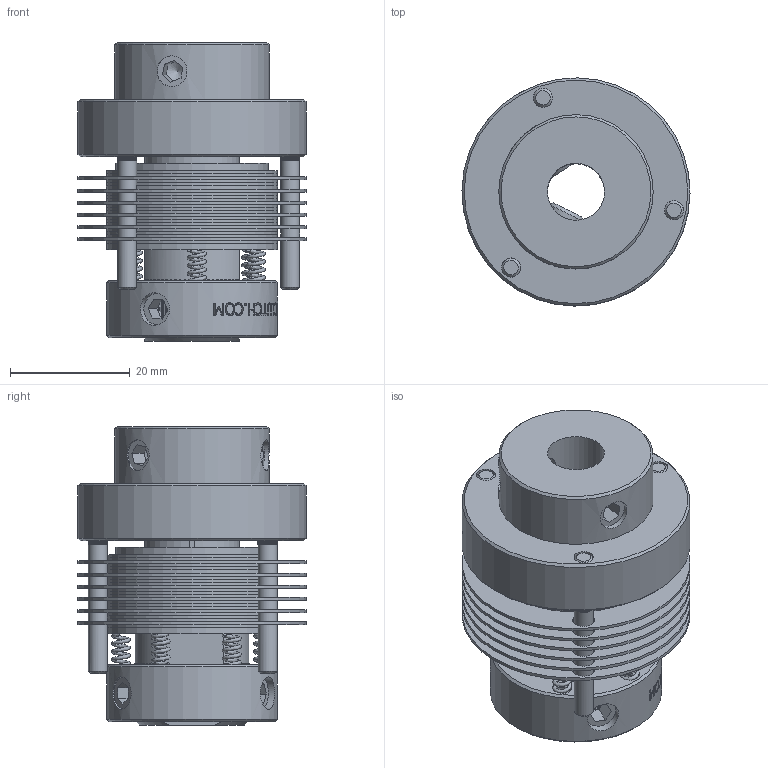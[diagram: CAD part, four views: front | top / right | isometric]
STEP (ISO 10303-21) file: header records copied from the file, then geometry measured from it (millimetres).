
FILE_DESCRIPTION((''),'2;1');
FILE_NAME('P:\Public\Organized 3D Clutch Assembly Files - Jessica\Slippers\Multi Plate\Size 24\SFS24.stp','2013-01-24T14:24:36',('TodLob'),(''),'Autodesk Inventor 2011','Autodesk Inventor 2011','');
FILE_SCHEMA(('AUTOMOTIVE_DESIGN { 1 0 10303 214 1 1 1 1 }'));
Length unit declared in the file: inch
Products named in the file (13): SFS24; S2412; S2419; S2421; S2413; S2415; S2438; S2417-6-F; S2414F; S2409; S2423; Hexagon Socket Set Screw - Flat Point - Inch 1/4-28 UNF x 0.38; Type A - Hexagon Socket Set Screw - Cup Point - Inch 1/4-28 UNF x 0.25
Assembly tree (42 placements, depth 2):
  SFS24
    S2412
    S2419
    S2421  x12
    S2413  x6
    S2415  x6
    S2438
    S2417-6-F
    S2414F  x6
    S2409
    S2423  x3
    Hexagon Socket Set Screw - Flat Point - Inch 1/4-28 UNF x 0.38  x2
    Type A - Hexagon Socket Set Screw - Cup Point - Inch 1/4-28 UNF x 0.25  x2
Bounding box: 38.1 x 38.1 x 49.91 mm (x, y, z)
Volume: 30543.5 mm3; surface area: 39966.6 mm2
Topology: 42 solids, 42 shells, 1839 faces, 4415 edges, 2901 vertices
Faces by surface type: plane 1573, cylinder 125, bspline 106, cone 35
Full cylindrical faces by diameter (mm): 3.175 x3, 3.2 x3, 3.251 x6, 3.658 x18, 5.156 x2, 5.41 x2, 6.35 x4, 9.525 x2, 15.9 x1, 19.05 x1, 19.126 x12, 20.625 x6, 25.4 x1, 25.781 x1, 28.575 x20, 38.1 x7
Entity records: 53824 total; most frequent: CARTESIAN_POINT 31996, ORIENTED_EDGE 4448, DIRECTION 4104, EDGE_CURVE 2224, VECTOR 1498, LINE 1498, VERTEX_POINT 1474, AXIS2_PLACEMENT_3D 1303
